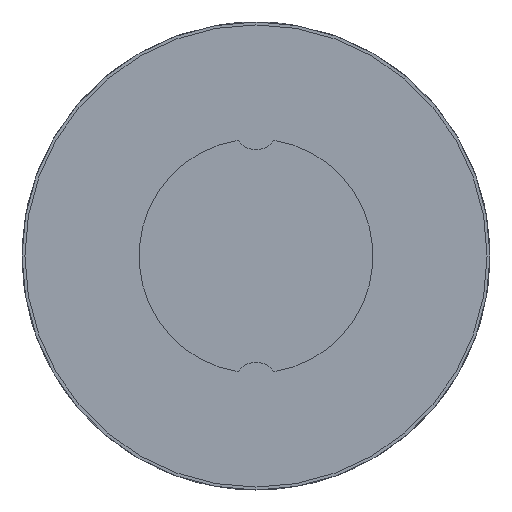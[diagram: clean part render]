
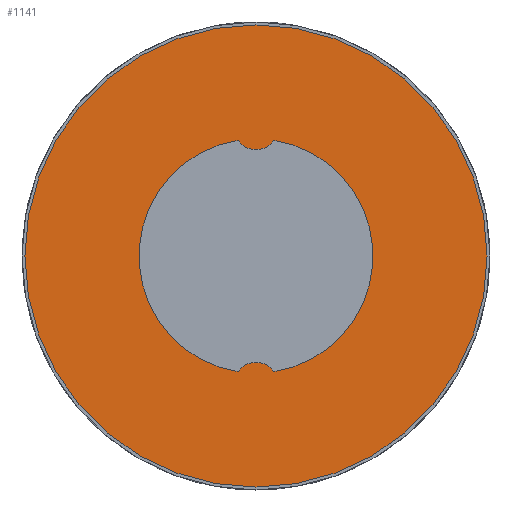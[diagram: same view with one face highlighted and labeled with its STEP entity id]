
A CAD part, left-side view. The second image highlights one B-rep face of the part: STEP entity #1141.
In plain terms, the highlighted planar face has unit normal (-1, 0, 0).
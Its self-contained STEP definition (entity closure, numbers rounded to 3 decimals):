
#802=CARTESIAN_POINT('',(0.0,-0.613,3.953));
#803=VERTEX_POINT('',#802);
#810=CARTESIAN_POINT('',(0.0,0.613,3.953));
#811=VERTEX_POINT('',#810);
#812=CARTESIAN_POINT('',(0.0,0.,4.385));
#813=DIRECTION('',(1.0,0.0,0.0));
#814=DIRECTION('',(0.0,-0.817,-0.576));
#815=AXIS2_PLACEMENT_3D('',#812,#813,#814);
#816=CIRCLE('',#815,0.75);
#817=EDGE_CURVE('',#803,#811,#816,.T.);
#844=CARTESIAN_POINT('',(0.0,0.613,-3.953));
#845=VERTEX_POINT('',#844);
#852=CARTESIAN_POINT('',(0.0,-0.613,-3.953));
#853=VERTEX_POINT('',#852);
#854=CARTESIAN_POINT('',(0.0,0.,-4.385));
#855=DIRECTION('',(1.,0.0,0.0));
#856=DIRECTION('',(0.0,0.817,0.576));
#857=AXIS2_PLACEMENT_3D('',#854,#855,#856);
#858=CIRCLE('',#857,0.75);
#859=EDGE_CURVE('',#845,#853,#858,.T.);
#876=CARTESIAN_POINT('',(0.,0.0,0.));
#877=DIRECTION('',(-1.0,0.0,0.0));
#878=DIRECTION('',(0.0,0.0,1.0));
#879=AXIS2_PLACEMENT_3D('',#876,#877,#878);
#880=CIRCLE('',#879,4.);
#881=EDGE_CURVE('',#811,#845,#880,.T.);
#908=CARTESIAN_POINT('',(0.,0.0,0.));
#909=DIRECTION('',(-1.0,0.0,0.0));
#910=DIRECTION('',(0.0,0.0,1.0));
#911=AXIS2_PLACEMENT_3D('',#908,#909,#910);
#912=CIRCLE('',#911,4.);
#913=EDGE_CURVE('',#853,#803,#912,.T.);
#1112=CARTESIAN_POINT('',(0.,0.0,7.9));
#1113=VERTEX_POINT('',#1112);
#1114=CARTESIAN_POINT('',(0.,0.0,0.));
#1115=DIRECTION('',(-1.0,0.0,0.0));
#1116=DIRECTION('',(0.0,0.0,1.0));
#1117=AXIS2_PLACEMENT_3D('',#1114,#1115,#1116);
#1118=CIRCLE('',#1117,7.9);
#1119=EDGE_CURVE('',#1113,#1113,#1118,.T.);
#1127=CARTESIAN_POINT('',(0.,0.0,5.95));
#1128=DIRECTION('',(-1.0,0.0,0.0));
#1129=DIRECTION('',(0.0,0.0,1.0));
#1130=AXIS2_PLACEMENT_3D('',#1127,#1128,#1129);
#1131=PLANE('',#1130);
#1132=ORIENTED_EDGE('',*,*,#1119,.T.);
#1133=EDGE_LOOP('',(#1132));
#1134=FACE_OUTER_BOUND('',#1133,.T.);
#1135=ORIENTED_EDGE('',*,*,#913,.F.);
#1136=ORIENTED_EDGE('',*,*,#859,.F.);
#1137=ORIENTED_EDGE('',*,*,#881,.F.);
#1138=ORIENTED_EDGE('',*,*,#817,.F.);
#1139=EDGE_LOOP('',(#1135,#1136,#1137,#1138));
#1140=FACE_BOUND('',#1139,.T.);
#1141=ADVANCED_FACE('',(#1134,#1140),#1131,.T.);
